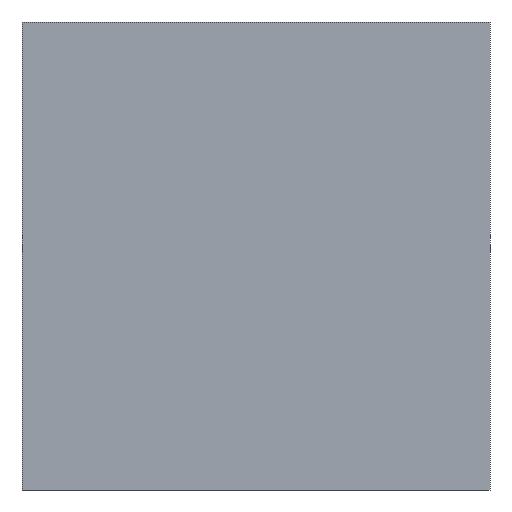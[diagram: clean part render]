
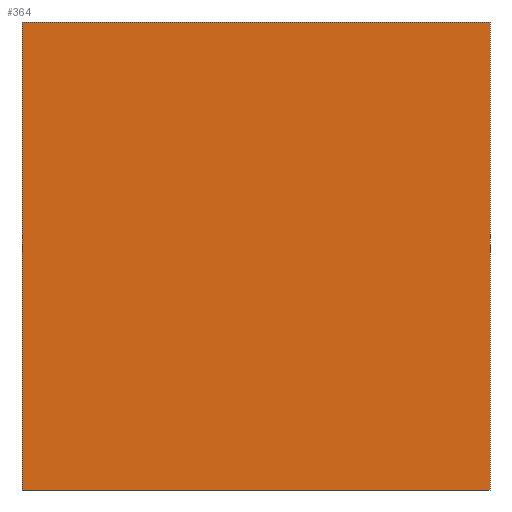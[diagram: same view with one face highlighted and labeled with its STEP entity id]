
A CAD part, front view. The second image highlights one B-rep face of the part: STEP entity #364.
In plain terms, the highlighted planar face has unit normal (0, -1, 0).
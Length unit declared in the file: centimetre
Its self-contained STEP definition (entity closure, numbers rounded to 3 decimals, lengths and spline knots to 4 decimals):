
#16 = VECTOR ( 'NONE', #227, 100. ) ;
#21 = CARTESIAN_POINT ( 'NONE',  ( 0., 0., 1000. ) ) ;
#32 = LINE ( 'NONE', #354, #292 ) ;
#34 = VECTOR ( 'NONE', #391, 100. ) ;
#59 = ORIENTED_EDGE ( 'NONE', *, *, #550, .F. ) ;
#65 = VERTEX_POINT ( 'NONE', #451 ) ;
#105 = VERTEX_POINT ( 'NONE', #363 ) ;
#115 = DIRECTION ( 'NONE',  ( 0., 0., -1. ) ) ;
#127 = CARTESIAN_POINT ( 'NONE',  ( 0., 0., 0. ) ) ;
#136 = EDGE_CURVE ( 'NONE', #460, #65, #171, .T. ) ;
#162 = CARTESIAN_POINT ( 'NONE',  ( 0., 0., 1000. ) ) ;
#168 = CARTESIAN_POINT ( 'NONE',  ( 1000., 0., 1000. ) ) ;
#171 = LINE ( 'NONE', #181, #16 ) ;
#181 = CARTESIAN_POINT ( 'NONE',  ( 0., 0., 0. ) ) ;
#213 = LINE ( 'NONE', #162, #34 ) ;
#226 = DIRECTION ( 'NONE',  ( 0., 0., -1. ) ) ;
#227 = DIRECTION ( 'NONE',  ( 1., 0., 0. ) ) ;
#252 = FACE_OUTER_BOUND ( 'NONE', #564, .T. ) ;
#261 = EDGE_CURVE ( 'NONE', #105, #460, #296, .T. ) ;
#292 = VECTOR ( 'NONE', #226, 100. ) ;
#296 = LINE ( 'NONE', #480, #346 ) ;
#326 = ORIENTED_EDGE ( 'NONE', *, *, #136, .T. ) ;
#346 = VECTOR ( 'NONE', #115, 100. ) ;
#354 = CARTESIAN_POINT ( 'NONE',  ( 1000., 0., 1000. ) ) ;
#363 = CARTESIAN_POINT ( 'NONE',  ( 0., 0., 1000. ) ) ;
#364 = ADVANCED_FACE ( 'NONE', ( #252 ), #526, .F. ) ;
#383 = EDGE_CURVE ( 'NONE', #459, #65, #32, .T. ) ;
#391 = DIRECTION ( 'NONE',  ( 1., 0., 0. ) ) ;
#400 = DIRECTION ( 'NONE',  ( 0., 0., 1. ) ) ;
#406 = DIRECTION ( 'NONE',  ( 0., 1., 0. ) ) ;
#451 = CARTESIAN_POINT ( 'NONE',  ( 1000., 0., 0. ) ) ;
#459 = VERTEX_POINT ( 'NONE', #168 ) ;
#460 = VERTEX_POINT ( 'NONE', #127 ) ;
#462 = AXIS2_PLACEMENT_3D ( 'NONE', #21, #406, #400 ) ;
#470 = ORIENTED_EDGE ( 'NONE', *, *, #383, .F. ) ;
#480 = CARTESIAN_POINT ( 'NONE',  ( 0., 0., 1000. ) ) ;
#505 = ORIENTED_EDGE ( 'NONE', *, *, #261, .T. ) ;
#526 = PLANE ( 'NONE',  #462 ) ;
#550 = EDGE_CURVE ( 'NONE', #105, #459, #213, .T. ) ;
#564 = EDGE_LOOP ( 'NONE', ( #326, #470, #59, #505 ) ) ;
